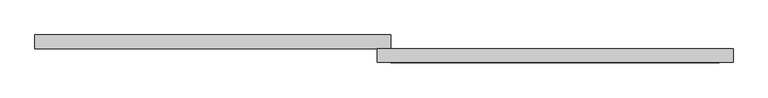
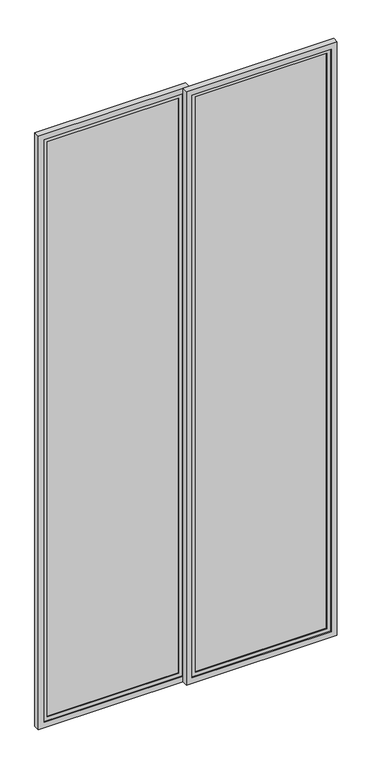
"""IFC4 building model written with IfcOpenShell, lengths in millimetres: plate geometry, 帷幕橫拉窗 : 帷幕橫拉窗."""

from ifc_helpers import new_model, si_unit, frame, origin, place, context, project, spatial, polyline, outline, extrude, source, transform, mapped, element, save


def plate_564381dc(model_context):
    return source(origin(), model_context, "Body", "SweptSolid", [
        extrude(outline(polyline([(0.0, -15.0), (0.0, 761.2500001), (3230.0, 761.2500001), (3230.0, -15.0), (0.0, -15.0)]), holes=[polyline([(30.0, 15.0), (3200.0, 15.0), (3200.0, 731.2500001), (30.0, 731.2500001), (30.0, 15.0)])]), frame((0.0, -30.0, 0.0), z_axis=(0.0, 1.0, 0.0), x_axis=(0.0, 0.0, 1.0)), (0.0, 0.0, 1.0), 30.0),
        extrude(outline(polyline([(711.2500001, -10.0), (711.2500001, -20.0), (35.0, -20.0), (35.0, -10.0), (711.2500001, -10.0)])), frame((0.0, 0.0, 50.0), z_axis=(0.0, 0.0, 1.0), x_axis=(1.0, 0.0, 0.0)), (0.0, 0.0, 1.0), 3130.0),
        extrude(outline(polyline([(3200.0, 731.2500001), (3200.0, 15.0), (30.0, 15.0), (30.0, 731.2500001), (3200.0, 731.2500001)]), holes=[polyline([(3180.0, 35.0), (3180.0, 711.2500001), (50.0, 711.2500001), (50.0, 35.0), (3180.0, 35.0)])]), frame((0.0, -25.0, 0.0), z_axis=(0.0, 1.0, 0.0), x_axis=(0.0, 0.0, 1.0)), (0.0, 0.0, 1.0), 20.0),
        extrude(outline(polyline([(-35.0, 20.0), (-35.0, 10.0), (-711.2500001, 10.0), (-711.2500001, 20.0), (-35.0, 20.0)])), frame((0.0, 0.0, 50.0), z_axis=(0.0, 0.0, 1.0), x_axis=(1.0, 0.0, 0.0)), (0.0, 0.0, 1.0), 3130.0),
        extrude(outline(polyline([(3200.0, -731.2500001), (30.0, -731.2500001), (30.0, -15.0), (3200.0, -15.0), (3200.0, -731.2500001)]), holes=[polyline([(3180.0, -711.2500001), (3180.0, -35.0), (50.0, -35.0), (50.0, -711.2500001), (3180.0, -711.2500001)])]), frame((0.0, 5.0, 0.0), z_axis=(0.0, 1.0, 0.0), x_axis=(0.0, 0.0, 1.0)), (0.0, 0.0, 1.0), 20.0),
        extrude(outline(polyline([(3230.0, -761.2500001), (0.0, -761.2500001), (0.0, 15.0), (3230.0, 15.0), (3230.0, -761.2500001)]), holes=[polyline([(3200.0, -15.0), (30.0, -15.0), (30.0, -731.2500001), (3200.0, -731.2500001), (3200.0, -15.0)])]), frame((0.0, 0.0, 0.0), z_axis=(0.0, 1.0, 0.0), x_axis=(0.0, 0.0, 1.0)), (0.0, 0.0, 1.0), 30.0),
    ])


if __name__ == "__main__":
    model = new_model("IFC4")
    model_context = context("Model", 3, world=origin())
    ifc_project = project(units=[si_unit("LENGTHUNIT", "METRE", prefix="MILLI")], contexts=[model_context])
    site = spatial("IfcSite", under=ifc_project)
    building = spatial("IfcBuilding", under=site)
    placement = place(None, origin())
    plate_shape = plate_564381dc(model_context)
    element("IfcPlate", 1, ObjectType="帷幕橫拉窗 : 帷幕橫拉窗", at=placement, inside=building, context=model_context, shape_type="MappedRepresentation", body=[
        mapped(plate_shape, transform((0.0, 0.0, 0.0), x_axis=(1.0, 0.0, 0.0), y_axis=(0.0, 1.0, 0.0), z_axis=(0.0, 0.0, 1.0))),
    ])
    save(model, "model.ifc")
